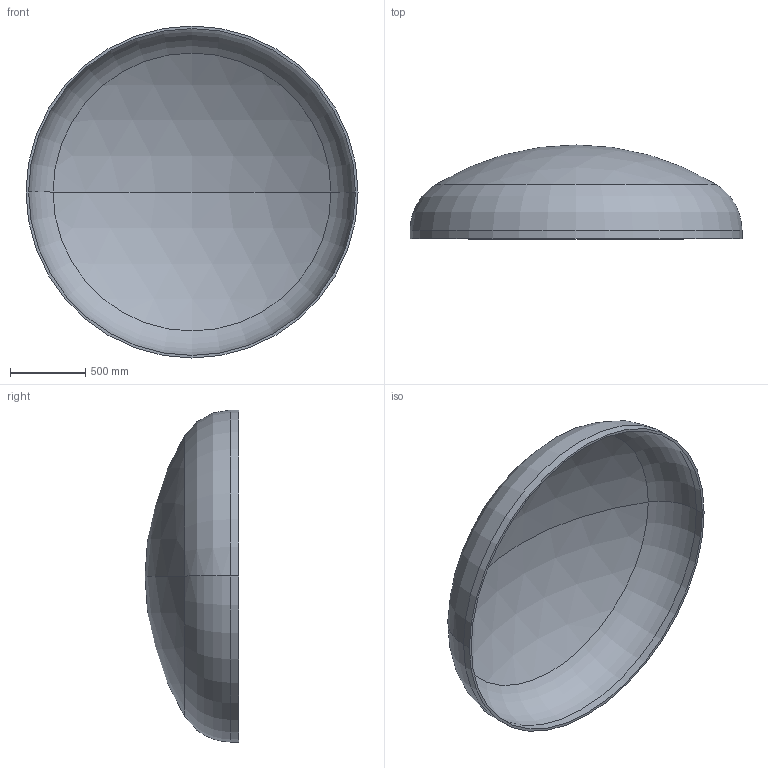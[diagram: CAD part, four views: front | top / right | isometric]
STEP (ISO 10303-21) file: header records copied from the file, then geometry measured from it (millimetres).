
FILE_DESCRIPTION (( 'STEP AP203' ), '1' );
FILE_NAME ('DIN 28013 Korbbogenform_-_Boden DIN 28013 - 2200 x 55 - I - s=17.step', '2016-07-01T14:22:36', ( '' ), ( '' ), 'SwSTEP 2.0', 'SolidWorks 2013', '' );
FILE_SCHEMA (( 'CONFIG_CONTROL_DESIGN' ));
Length unit declared in the file: millimetre
Products named in the file (1): DIN 28013 Korbbogenform_-_Boden DIN 28013 - 2200 x 55 - I - s=17
Bounding box: 2200 x 621.9 x 2200 mm (x, y, z)
Volume: 95065820 mm3; surface area: 11301402.8 mm2
Topology: 1 solids, 1 shells, 13 faces, 24 edges, 14 vertices
Faces by surface type: torus 4, cylinder 4, sphere 4, plane 1
Entity records: 407 total; most frequent: DIRECTION 72, CARTESIAN_POINT 52, ORIENTED_EDGE 48, AXIS2_PLACEMENT_3D 34, EDGE_CURVE 24, CIRCLE 20, EDGE_LOOP 14, VERTEX_POINT 14
